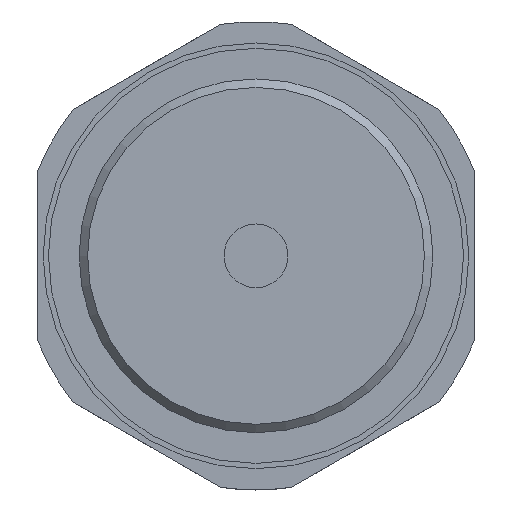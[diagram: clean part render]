
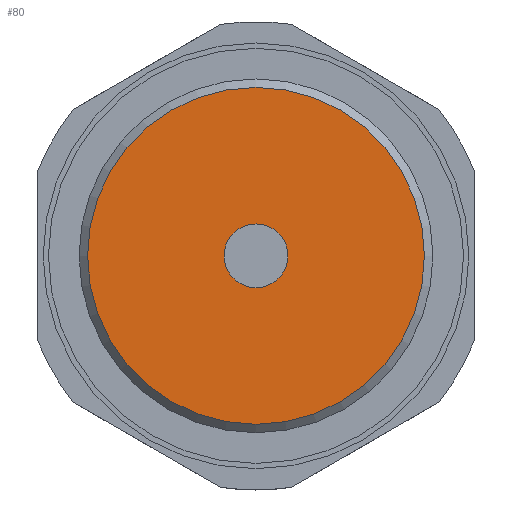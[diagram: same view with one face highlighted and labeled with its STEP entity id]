
A CAD part, front view. The second image highlights one B-rep face of the part: STEP entity #80.
In plain terms, the highlighted planar face has unit normal (0, -1, 0).
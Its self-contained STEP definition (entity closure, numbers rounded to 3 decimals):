
#80 = ADVANCED_FACE( '', ( #120, #121 ), #122, .F. );
#120 = FACE_BOUND( '', #205, .T. );
#121 = FACE_OUTER_BOUND( '', #206, .T. );
#122 = PLANE( '', #207 );
#205 = EDGE_LOOP( '', ( #309 ) );
#206 = EDGE_LOOP( '', ( #310 ) );
#207 = AXIS2_PLACEMENT_3D( '', #311, #312, #313 );
#309 = ORIENTED_EDGE( '', *, *, #500, .F. );
#310 = ORIENTED_EDGE( '', *, *, #502, .T. );
#311 = CARTESIAN_POINT( '', ( 15.825, -8., 0. ) );
#312 = DIRECTION( '', ( 0., 1., 0. ) );
#313 = DIRECTION( '', ( 0., 0., 1. ) );
#500 = EDGE_CURVE( '', #567, #567, #568, .T. );
#502 = EDGE_CURVE( '', #571, #571, #572, .T. );
#567 = VERTEX_POINT( '', #689 );
#568 = CIRCLE( '', #690, 3. );
#571 = VERTEX_POINT( '', #693 );
#572 = CIRCLE( '', #694, 15.825 );
#689 = CARTESIAN_POINT( '', ( 0., -8., -3. ) );
#690 = AXIS2_PLACEMENT_3D( '', #796, #797, #798 );
#693 = CARTESIAN_POINT( '', ( 0., -8., -15.825 ) );
#694 = AXIS2_PLACEMENT_3D( '', #802, #803, #804 );
#796 = CARTESIAN_POINT( '', ( 0., -8., 0. ) );
#797 = DIRECTION( '', ( 0., -1., 0. ) );
#798 = DIRECTION( '', ( 0., 0., -1. ) );
#802 = CARTESIAN_POINT( '', ( 0., -8., 0. ) );
#803 = DIRECTION( '', ( 0., -1., 0. ) );
#804 = DIRECTION( '', ( 0., 0., -1. ) );
